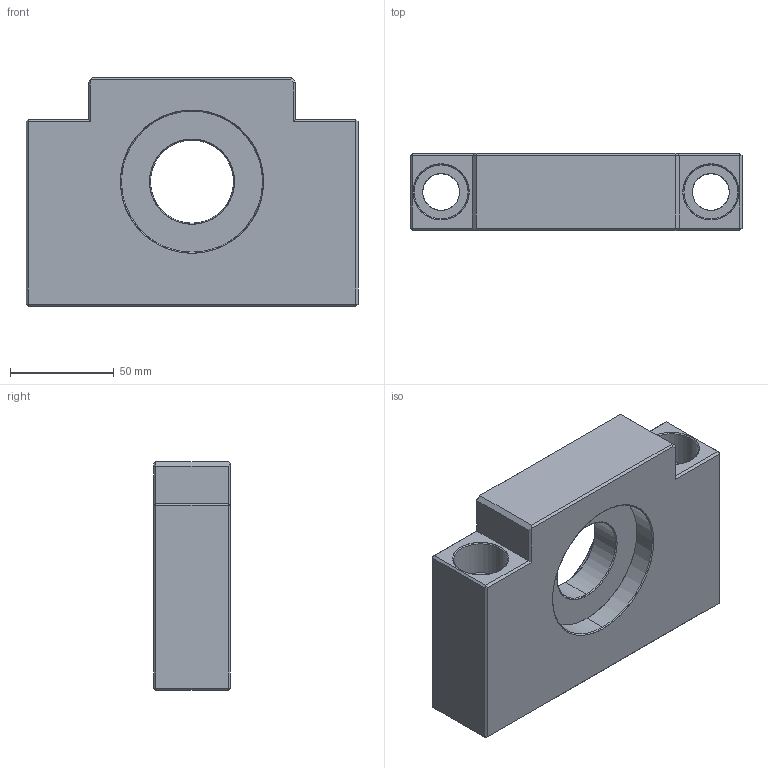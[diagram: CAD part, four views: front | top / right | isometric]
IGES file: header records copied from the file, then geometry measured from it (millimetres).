
Start section: SolidWorks IGES file using analytic representation for surfaces
Global section: file name: E:\同创达图纸\产品示意图\3D选型图\支撑座\BF系列\BF40.IGS; native system: SolidWorks 2012; preprocessor: SolidWorks 2012; author: gao; date: 130702.152615; units: millimetre
Bounding box: 160 x 37 x 110 mm (x, y, z)
Surface area: 65699.4 mm2 (no closed solid volume)
Topology: 0 solids, 0 shells, 77 faces, 936 edges, 936 vertices
Faces by surface type: bspline 47, revolution 30
